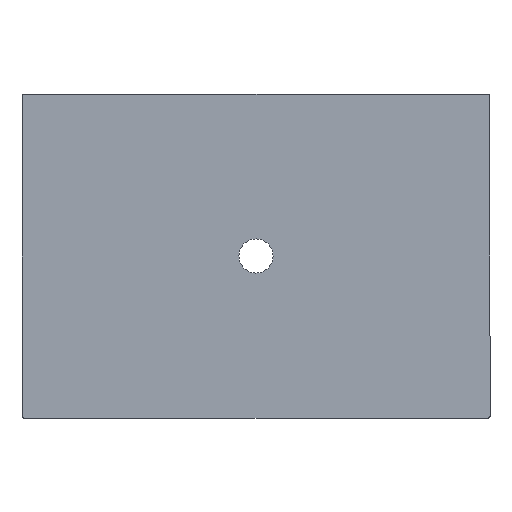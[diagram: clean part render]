
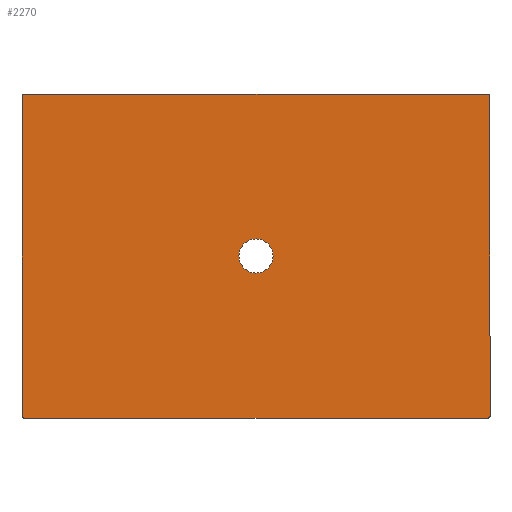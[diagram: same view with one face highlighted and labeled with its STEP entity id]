
A CAD part, front view. The second image highlights one B-rep face of the part: STEP entity #2270.
In plain terms, the highlighted planar face has unit normal (0, -1, 0).
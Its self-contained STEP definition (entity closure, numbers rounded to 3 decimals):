
#4 = CARTESIAN_POINT ( 'NONE',  ( 645.001, 0., -450. ) ) ;
#14 = CARTESIAN_POINT ( 'NONE',  ( 650., 0., 445.001 ) ) ;
#16 =( BOUNDED_CURVE ( )  B_SPLINE_CURVE ( 3, ( #457, #2376, #1253, #2017 ),
 .UNSPECIFIED., .F., .T. ) 
 B_SPLINE_CURVE_WITH_KNOTS ( ( 4, 4 ),
 ( 5.498, 7.068 ),
 .UNSPECIFIED. ) 
 CURVE ( )  GEOMETRIC_REPRESENTATION_ITEM ( )  RATIONAL_B_SPLINE_CURVE ( ( 1., 0.805, 0.805, 1. ) ) 
 REPRESENTATION_ITEM ( '' )  );
#27 = VERTEX_POINT ( 'NONE', #1525 ) ;
#40 = FACE_OUTER_BOUND ( 'NONE', #1685, .T. ) ;
#66 = EDGE_CURVE ( 'NONE', #27, #27, #902, .T. ) ;
#96 = CARTESIAN_POINT ( 'NONE',  ( 645.001, 0., 450. ) ) ;
#102 = CARTESIAN_POINT ( 'NONE',  ( 650., 0., 447.929 ) ) ;
#112 = EDGE_CURVE ( 'NONE', #2413, #1660, #1218, .T. ) ;
#177 = VERTEX_POINT ( 'NONE', #96 ) ;
#178 = VECTOR ( 'NONE', #2072, 1000. ) ;
#214 = CARTESIAN_POINT ( 'NONE',  ( 0., 0., 0. ) ) ;
#257 = DIRECTION ( 'NONE',  ( 0., 1., 0. ) ) ;
#300 = CARTESIAN_POINT ( 'NONE',  ( -647.929, 0., -450. ) ) ;
#424 = AXIS2_PLACEMENT_3D ( 'NONE', #214, #257, #1769 ) ;
#457 = CARTESIAN_POINT ( 'NONE',  ( -645.001, 0., 450. ) ) ;
#463 = DIRECTION ( 'NONE',  ( 0., 0., -1. ) ) ;
#559 = CARTESIAN_POINT ( 'NONE',  ( 650., 0., -447.929 ) ) ;
#593 = PLANE ( 'NONE',  #424 ) ;
#628 = CARTESIAN_POINT ( 'NONE',  ( -650., 0., 445.001 ) ) ;
#667 = CARTESIAN_POINT ( 'NONE',  ( 645.001, 0., 450. ) ) ;
#670 = CARTESIAN_POINT ( 'NONE',  ( -650., 0., -445.001 ) ) ;
#721 = LINE ( 'NONE', #1478, #178 ) ;
#731 = EDGE_CURVE ( 'NONE', #2447, #1125, #2229, .T. ) ;
#741 = EDGE_LOOP ( 'NONE', ( #2189 ) ) ;
#745 = CARTESIAN_POINT ( 'NONE',  ( -645.001, 0., 450. ) ) ;
#806 = ORIENTED_EDGE ( 'NONE', *, *, #2088, .T. ) ;
#818 = DIRECTION ( 'NONE',  ( 0., -1., 0. ) ) ;
#848 = CARTESIAN_POINT ( 'NONE',  ( 647.929, 0., 450. ) ) ;
#865 = CARTESIAN_POINT ( 'NONE',  ( -645.001, 0., -450. ) ) ;
#902 = CIRCLE ( 'NONE', #1301, 47.5 ) ;
#960 = FACE_BOUND ( 'NONE', #741, .T. ) ;
#978 = ORIENTED_EDGE ( 'NONE', *, *, #1091, .F. ) ;
#1039 = VERTEX_POINT ( 'NONE', #4 ) ;
#1064 = CARTESIAN_POINT ( 'NONE',  ( -650., 0., -447.929 ) ) ;
#1091 = EDGE_CURVE ( 'NONE', #1039, #1125, #721, .T. ) ;
#1113 = VECTOR ( 'NONE', #1162, 1000. ) ;
#1125 = VERTEX_POINT ( 'NONE', #2247 ) ;
#1162 = DIRECTION ( 'NONE',  ( 0., 0., 1. ) ) ;
#1218 = LINE ( 'NONE', #1582, #1863 ) ;
#1253 = CARTESIAN_POINT ( 'NONE',  ( -650., 0., 447.929 ) ) ;
#1301 = AXIS2_PLACEMENT_3D ( 'NONE', #2370, #818, #463 ) ;
#1354 = ORIENTED_EDGE ( 'NONE', *, *, #1516, .T. ) ;
#1372 = CARTESIAN_POINT ( 'NONE',  ( -650., 0., -445.001 ) ) ;
#1378 = EDGE_CURVE ( 'NONE', #2413, #177, #2143, .T. ) ;
#1463 = ORIENTED_EDGE ( 'NONE', *, *, #731, .T. ) ;
#1478 = CARTESIAN_POINT ( 'NONE',  ( 650., 0., -450. ) ) ;
#1502 = CARTESIAN_POINT ( 'NONE',  ( 647.929, 0., -450. ) ) ;
#1503 = EDGE_CURVE ( 'NONE', #1995, #177, #1633, .T. ) ;
#1510 = ORIENTED_EDGE ( 'NONE', *, *, #1503, .F. ) ;
#1516 = EDGE_CURVE ( 'NONE', #1995, #2436, #16, .T. ) ;
#1525 = CARTESIAN_POINT ( 'NONE',  ( 0., 0., -47.5 ) ) ;
#1558 = VECTOR ( 'NONE', #2388, 1000. ) ;
#1582 = CARTESIAN_POINT ( 'NONE',  ( 650., 0., 450. ) ) ;
#1618 = CARTESIAN_POINT ( 'NONE',  ( -650., 0., 450. ) ) ;
#1626 = DIRECTION ( 'NONE',  ( 0., 0., -1. ) ) ;
#1633 = LINE ( 'NONE', #1618, #1558 ) ;
#1641 = CARTESIAN_POINT ( 'NONE',  ( 650., 0., -445.001 ) ) ;
#1660 = VERTEX_POINT ( 'NONE', #1641 ) ;
#1685 = EDGE_LOOP ( 'NONE', ( #978, #806, #2255, #2111, #1510, #1354, #1859, #1463 ) ) ;
#1769 = DIRECTION ( 'NONE',  ( 0., 0., 1. ) ) ;
#1805 = CARTESIAN_POINT ( 'NONE',  ( 650., 0., 445.001 ) ) ;
#1859 = ORIENTED_EDGE ( 'NONE', *, *, #2274, .F. ) ;
#1863 = VECTOR ( 'NONE', #1626, 1000. ) ;
#1953 = LINE ( 'NONE', #1964, #1113 ) ;
#1964 = CARTESIAN_POINT ( 'NONE',  ( -650., 0., -450. ) ) ;
#1995 = VERTEX_POINT ( 'NONE', #745 ) ;
#2017 = CARTESIAN_POINT ( 'NONE',  ( -650., 0., 445.001 ) ) ;
#2055 =( BOUNDED_CURVE ( )  B_SPLINE_CURVE ( 3, ( #2246, #1502, #559, #2280 ),
 .UNSPECIFIED., .F., .F. ) 
 B_SPLINE_CURVE_WITH_KNOTS ( ( 4, 4 ),
 ( 5.498, 7.068 ),
 .UNSPECIFIED. ) 
 CURVE ( )  GEOMETRIC_REPRESENTATION_ITEM ( )  RATIONAL_B_SPLINE_CURVE ( ( 1., 0.805, 0.805, 1. ) ) 
 REPRESENTATION_ITEM ( '' )  );
#2072 = DIRECTION ( 'NONE',  ( -1., 0., 0. ) ) ;
#2088 = EDGE_CURVE ( 'NONE', #1039, #1660, #2055, .T. ) ;
#2111 = ORIENTED_EDGE ( 'NONE', *, *, #1378, .T. ) ;
#2143 =( BOUNDED_CURVE ( )  B_SPLINE_CURVE ( 3, ( #1805, #102, #848, #667 ),
 .UNSPECIFIED., .F., .T. ) 
 B_SPLINE_CURVE_WITH_KNOTS ( ( 4, 4 ),
 ( 5.498, 7.068 ),
 .UNSPECIFIED. ) 
 CURVE ( )  GEOMETRIC_REPRESENTATION_ITEM ( )  RATIONAL_B_SPLINE_CURVE ( ( 1., 0.805, 0.805, 1. ) ) 
 REPRESENTATION_ITEM ( '' )  );
#2189 = ORIENTED_EDGE ( 'NONE', *, *, #66, .F. ) ;
#2229 =( BOUNDED_CURVE ( )  B_SPLINE_CURVE ( 3, ( #670, #1064, #300, #865 ),
 .UNSPECIFIED., .F., .T. ) 
 B_SPLINE_CURVE_WITH_KNOTS ( ( 4, 4 ),
 ( 5.498, 7.068 ),
 .UNSPECIFIED. ) 
 CURVE ( )  GEOMETRIC_REPRESENTATION_ITEM ( )  RATIONAL_B_SPLINE_CURVE ( ( 1., 0.805, 0.805, 1. ) ) 
 REPRESENTATION_ITEM ( '' )  );
#2246 = CARTESIAN_POINT ( 'NONE',  ( 645.001, 0., -450. ) ) ;
#2247 = CARTESIAN_POINT ( 'NONE',  ( -645.001, 0., -450. ) ) ;
#2255 = ORIENTED_EDGE ( 'NONE', *, *, #112, .F. ) ;
#2270 = ADVANCED_FACE ( 'NONE', ( #960, #40 ), #593, .F. ) ;
#2274 = EDGE_CURVE ( 'NONE', #2447, #2436, #1953, .T. ) ;
#2280 = CARTESIAN_POINT ( 'NONE',  ( 650., 0., -445.001 ) ) ;
#2370 = CARTESIAN_POINT ( 'NONE',  ( 0., 0., 0. ) ) ;
#2376 = CARTESIAN_POINT ( 'NONE',  ( -647.929, 0., 450. ) ) ;
#2388 = DIRECTION ( 'NONE',  ( 1., 0., 0. ) ) ;
#2413 = VERTEX_POINT ( 'NONE', #14 ) ;
#2436 = VERTEX_POINT ( 'NONE', #628 ) ;
#2447 = VERTEX_POINT ( 'NONE', #1372 ) ;
